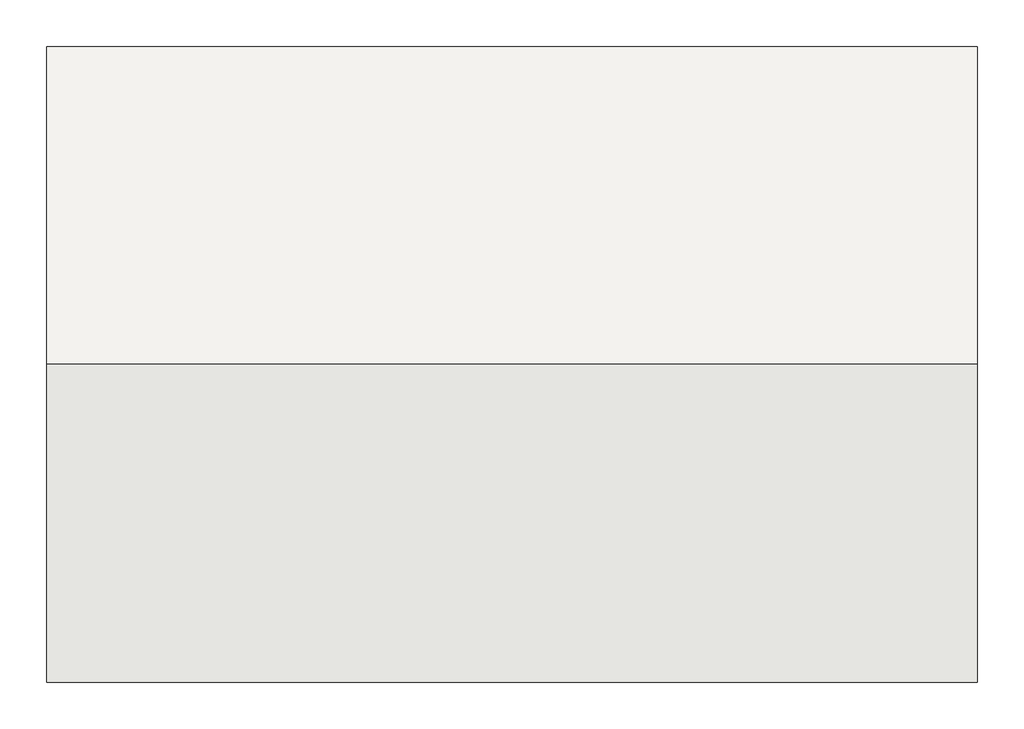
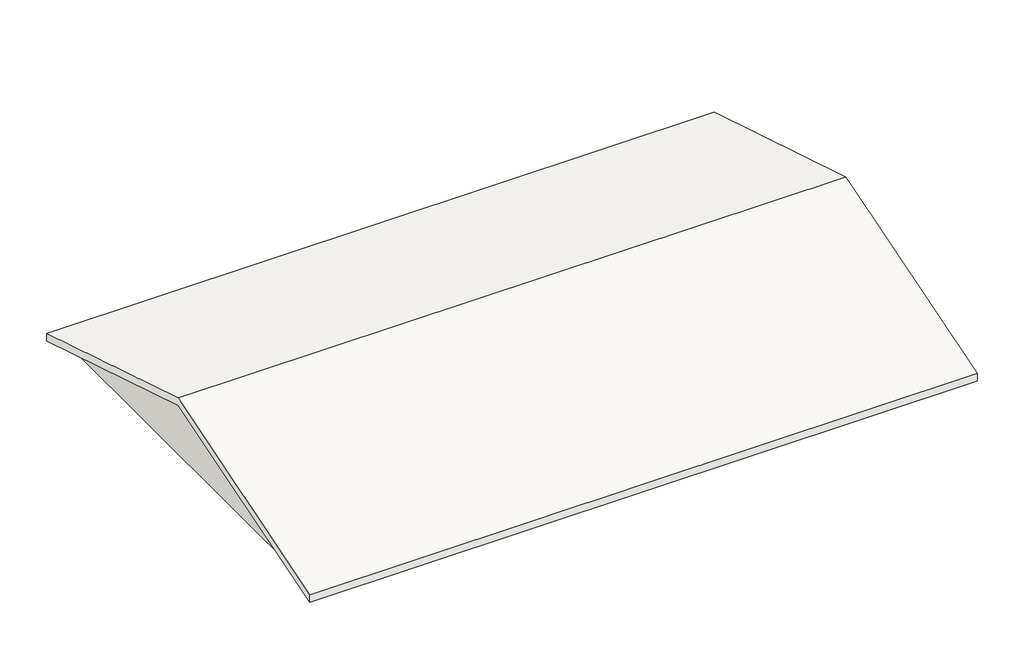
# One storey: 2 walls, 1 roof.
"""IFC4 building model written with IfcOpenShell, lengths in millimetres."""

from ifc_helpers import new_model, si_unit, frame, origin, place, context, project, spatial, polyline, outline, extrude, element, save

model = new_model("IFC4")

# Units and contexts
model_context = context("Model", 3, world=origin())
ifc_project = project(units=[si_unit("LENGTHUNIT", "METRE", prefix="MILLI")], contexts=[model_context])

# Site, building, storey
site = spatial("IfcSite", under=ifc_project)
building = spatial("IfcBuilding", under=site)
storey = spatial("IfcBuildingStorey", under=building, Name="Arase murs", Elevation=2860.0)

# Roof
placement = place(None, origin())
element("IfcRoof", 1, ObjectType="Toit - 100 mm", at=placement, inside=storey, context=model_context, shape_type="SweptSolid", body=[
    extrude(outline(polyline([(21506.1413117, 2933.9961075), (24531.1413117, 3858.8314189), (27556.1413117, 2933.9961075), (27556.1413117, 2829.4269319), (24531.1413117, 3754.2622433), (21506.1413117, 2829.4269319), (21506.1413117, 2933.9961075)])), frame((-4037.819844, 0.0, 0.0), z_axis=(1.0, 0.0, 0.0), x_axis=(0.0, 1.0, 0.0)), (0.0, 0.0, 1.0), 8860.0),
])

# Walls
element("IfcWall", 2, ObjectType="caillebotis", at=placement, inside=storey, context=model_context, shape_type="SweptSolid", body=[
    extrude(outline(polyline([(21786.1413117, 2860.0), (21786.1413117, 2915.0315227), (24531.1413117, 3754.2622433), (27266.1413117, 2918.0888295), (27266.1413117, 2860.0), (21786.1413117, 2860.0)])), frame((4622.180156, 0.0, 0.0), z_axis=(1.0, 0.0, 0.0), x_axis=(0.0, 1.0, 0.0)), (0.0, 0.0, 1.0), 50.0),
])
element("IfcWall", 3, ObjectType="caillebotis", at=placement, inside=storey, context=model_context, shape_type="SweptSolid", body=[
    extrude(outline(polyline([(27236.1413117, 2860.0), (21826.1413117, 2860.0), (21826.1413117, 2927.2607499), (24531.1413117, 3754.2622433), (27236.1413117, 2927.2607499), (27236.1413117, 2860.0)])), frame((-3887.819844, 0.0, 0.0), z_axis=(1.0, 0.0, 0.0), x_axis=(0.0, 1.0, 0.0)), (0.0, 0.0, 1.0), 50.0),
])

save(model, "model.ifc")
